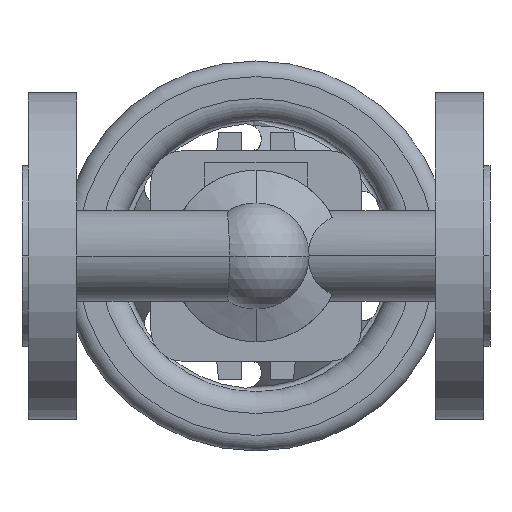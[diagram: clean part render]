
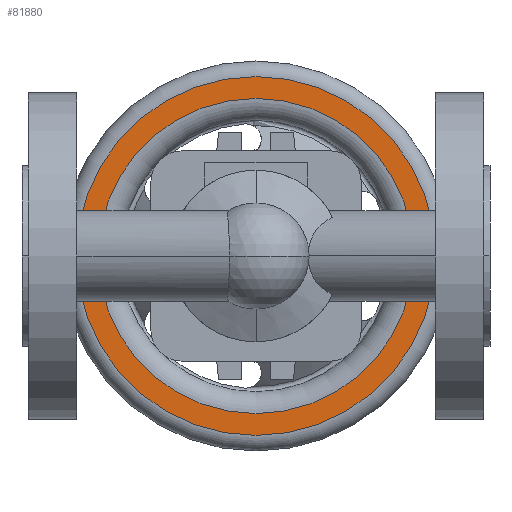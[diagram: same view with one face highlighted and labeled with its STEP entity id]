
A CAD part, front view. The second image highlights one B-rep face of the part: STEP entity #81880.
In plain terms, the highlighted planar face has unit normal (0, -1, 0).
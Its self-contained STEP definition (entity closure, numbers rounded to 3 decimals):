
#81230=CARTESIAN_POINT('',(17.5,202.3,0.));
#81240=VERTEX_POINT('',#81230);
#81270=CARTESIAN_POINT('',(75.,202.3,0.));
#81280=DIRECTION('',(0.,1.,0.));
#81290=DIRECTION('',(-1.,0.,0.));
#81300=AXIS2_PLACEMENT_3D('',#81270,#81280,#81290);
#81310=CIRCLE('',#81300,57.5);
#81320=CARTESIAN_POINT('',(75.,202.3,-57.5));
#81330=VERTEX_POINT('',#81320);
#81340=EDGE_CURVE('',#81330,#81240,#81310,.T.);
#81360=CARTESIAN_POINT('',(132.5,202.3,0.));
#81370=VERTEX_POINT('',#81360);
#81380=EDGE_CURVE('',#81370,#81330,#81310,.T.);
#81580=CARTESIAN_POINT('',(21.,202.3,0.));
#81590=DIRECTION('',(0.,-1.,0.));
#81600=DIRECTION('',(1.,0.,0.));
#81610=AXIS2_PLACEMENT_3D('',#81580,#81590,#81600);
#81620=PLANE('',#81610);
#81630=ORIENTED_EDGE('',*,*,#81340,.F.);
#81640=EDGE_CURVE('',#81240,#81370,#81310,.T.);
#81650=ORIENTED_EDGE('',*,*,#81640,.F.);
#81660=ORIENTED_EDGE('',*,*,#81380,.F.);
#81670=EDGE_LOOP('',(#81660,#81650,#81630));
#81680=FACE_OUTER_BOUND('',#81670,.T.);
#81690=CARTESIAN_POINT('',(75.,202.3,0.));
#81700=DIRECTION('',(0.,1.,0.));
#81710=DIRECTION('',(-1.,0.,0.));
#81720=AXIS2_PLACEMENT_3D('',#81690,#81700,#81710);
#81730=CIRCLE('',#81720,50.5);
#81740=CARTESIAN_POINT('',(24.5,202.3,0.));
#81750=VERTEX_POINT('',#81740);
#81760=CARTESIAN_POINT('',(125.5,202.3,0.));
#81770=VERTEX_POINT('',#81760);
#81780=EDGE_CURVE('',#81750,#81770,#81730,.T.);
#81790=ORIENTED_EDGE('',*,*,#81780,.T.);
#81800=CARTESIAN_POINT('',(75.,202.3,-50.5));
#81810=VERTEX_POINT('',#81800);
#81820=EDGE_CURVE('',#81810,#81750,#81730,.T.);
#81830=ORIENTED_EDGE('',*,*,#81820,.T.);
#81840=EDGE_CURVE('',#81770,#81810,#81730,.T.);
#81850=ORIENTED_EDGE('',*,*,#81840,.T.);
#81860=EDGE_LOOP('',(#81850,#81830,#81790));
#81870=FACE_BOUND('',#81860,.T.);
#81880=ADVANCED_FACE('',(#81680,#81870),#81620,.T.);
